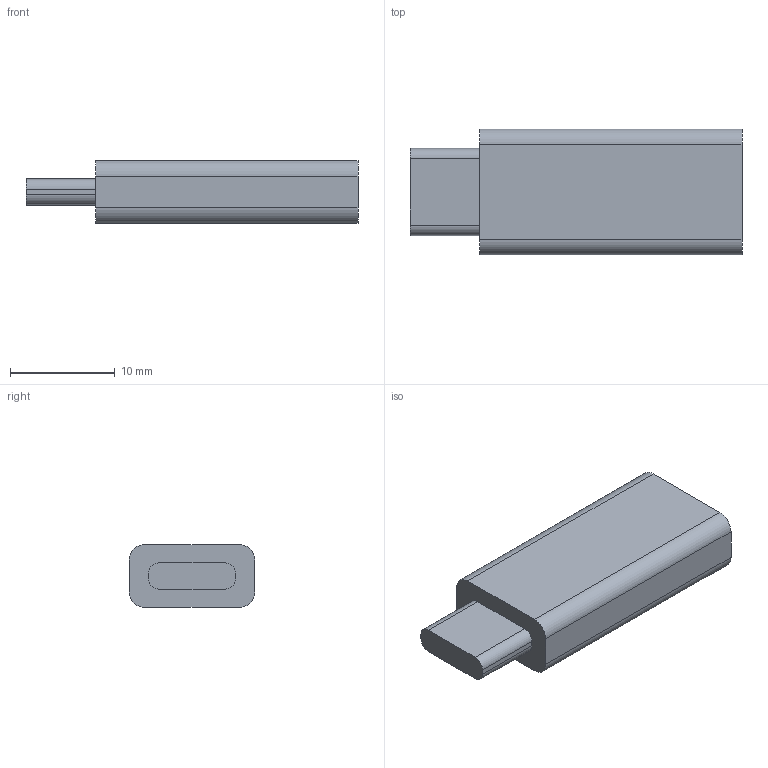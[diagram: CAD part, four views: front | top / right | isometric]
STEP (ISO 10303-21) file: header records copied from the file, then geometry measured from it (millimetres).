
FILE_DESCRIPTION(('Open CASCADE Model'),'2;1');
FILE_NAME('Open CASCADE Shape Model','2026-09-09T11:54:03',('Author'),( 'Open CASCADE'),'Open CASCADE STEP processor 7.7','Open CASCADE 7.7' ,'Unknown');
FILE_SCHEMA(('AUTOMOTIVE_DESIGN { 1 0 10303 214 1 1 1 1 }'));
Length unit declared in the file: millimetre
Products named in the file (1): Open CASCADE STEP translator 7.7 1
Bounding box: 31.65 x 12 x 6 mm (x, y, z)
Volume: 1884 mm3; surface area: 1108 mm2
Topology: 1 solids, 1 shells, 19 faces, 48 edges, 32 vertices
Faces by surface type: plane 11, cylinder 8
Entity records: 1236 total; most frequent: CARTESIAN_POINT 244, DIRECTION 192, LINE 112, VECTOR 112, ORIENTED_EDGE 96, PCURVE 96, DEFINITIONAL_REPRESENTATION 96, EDGE_CURVE 48
